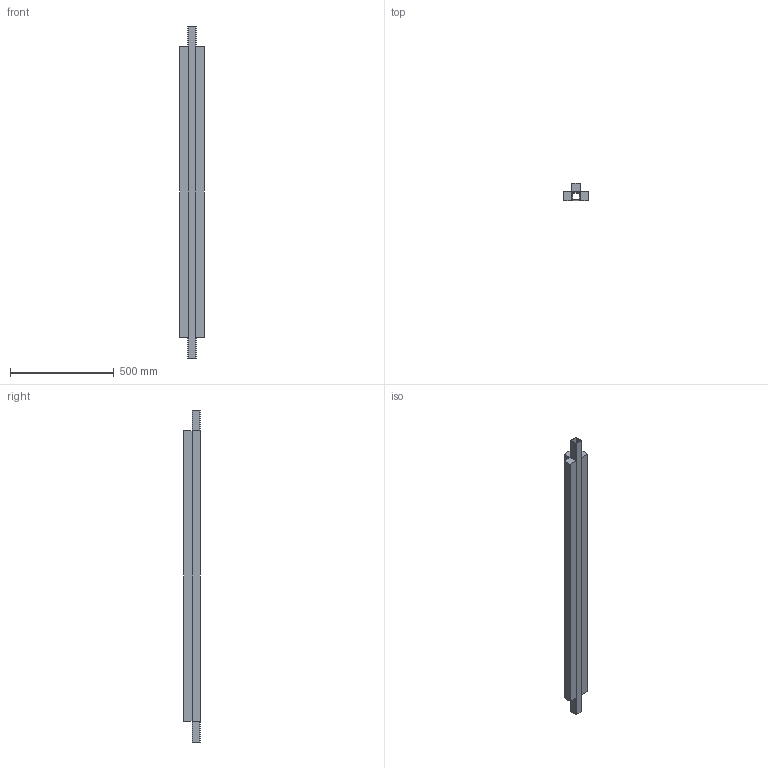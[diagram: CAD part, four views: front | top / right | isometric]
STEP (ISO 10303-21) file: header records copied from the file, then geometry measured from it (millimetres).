
FILE_DESCRIPTION (( 'STEP AP214' ), '1' );
FILE_NAME ('0005460_0_00.step', '2018-07-12T08:48:48', ( '' ), ( '' ), 'SwSTEP 2.0', 'SolidWorks 2018', '' );
FILE_SCHEMA (( 'AUTOMOTIVE_DESIGN' ));
Length unit declared in the file: millimetre
Products named in the file (3): 0005460_0_00; 0005460_0_01_3 lame maxi L=1400; 0005460_0_02_3 lame maxi L=1400
Assembly tree (2 placements, depth 2):
  0005460_0_00
    0005460_0_01_3 lame maxi L=1400
    0005460_0_02_3 lame maxi L=1400
Bounding box: 120 x 80 x 1600 mm (x, y, z)
Volume: 7640054.9 mm3; surface area: 1144900.7 mm2
Topology: 2 solids, 2 shells, 32 faces, 84 edges, 56 vertices
Faces by surface type: plane 24, cylinder 8
Entity records: 1450 total; most frequent: CARTESIAN_POINT 177, DIRECTION 174, ORIENTED_EDGE 168, EDGE_CURVE 84, LINE 68, VECTOR 68, VERTEX_POINT 56, AXIS2_PLACEMENT_3D 53
